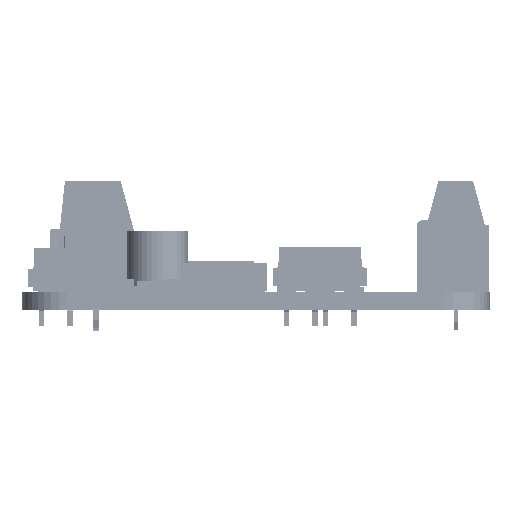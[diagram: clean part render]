
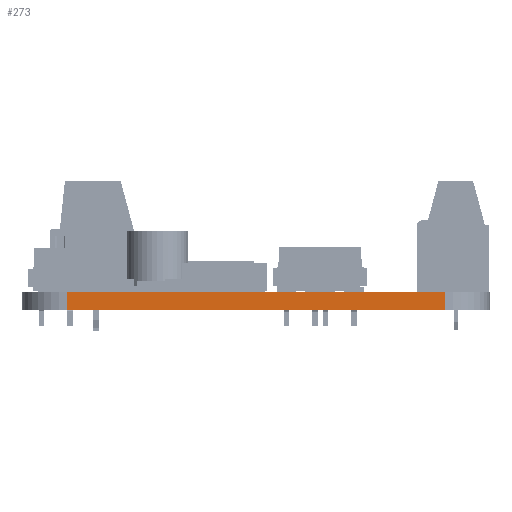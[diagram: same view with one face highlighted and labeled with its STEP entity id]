
A CAD part, left-side view. The second image highlights one B-rep face of the part: STEP entity #273.
In plain terms, the highlighted planar face has unit normal (-1, 0, 0).
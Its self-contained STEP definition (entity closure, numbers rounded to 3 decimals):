
#273 = ADVANCED_FACE('',(#274),#308,.T.);
#274 = FACE_BOUND('',#275,.T.);
#275 = EDGE_LOOP('',(#276,#286,#294,#302));
#276 = ORIENTED_EDGE('',*,*,#277,.T.);
#277 = EDGE_CURVE('',#278,#280,#282,.T.);
#278 = VERTEX_POINT('',#279);
#279 = CARTESIAN_POINT('',(0.,4.,0.));
#280 = VERTEX_POINT('',#281);
#281 = CARTESIAN_POINT('',(0.,4.,1.591));
#282 = LINE('',#283,#284);
#283 = CARTESIAN_POINT('',(0.,4.,0.));
#284 = VECTOR('',#285,1.);
#285 = DIRECTION('',(0.,0.,1.));
#286 = ORIENTED_EDGE('',*,*,#287,.T.);
#287 = EDGE_CURVE('',#280,#288,#290,.T.);
#288 = VERTEX_POINT('',#289);
#289 = CARTESIAN_POINT('',(0.,38.,1.591));
#290 = LINE('',#291,#292);
#291 = CARTESIAN_POINT('',(0.,4.,1.591));
#292 = VECTOR('',#293,1.);
#293 = DIRECTION('',(0.,1.,0.));
#294 = ORIENTED_EDGE('',*,*,#295,.F.);
#295 = EDGE_CURVE('',#296,#288,#298,.T.);
#296 = VERTEX_POINT('',#297);
#297 = CARTESIAN_POINT('',(0.,38.,0.));
#298 = LINE('',#299,#300);
#299 = CARTESIAN_POINT('',(0.,38.,0.));
#300 = VECTOR('',#301,1.);
#301 = DIRECTION('',(0.,0.,1.));
#302 = ORIENTED_EDGE('',*,*,#303,.F.);
#303 = EDGE_CURVE('',#278,#296,#304,.T.);
#304 = LINE('',#305,#306);
#305 = CARTESIAN_POINT('',(0.,4.,0.));
#306 = VECTOR('',#307,1.);
#307 = DIRECTION('',(0.,1.,0.));
#308 = PLANE('',#309);
#309 = AXIS2_PLACEMENT_3D('',#310,#311,#312);
#310 = CARTESIAN_POINT('',(0.,4.,0.));
#311 = DIRECTION('',(-1.,0.,0.));
#312 = DIRECTION('',(0.,1.,0.));
